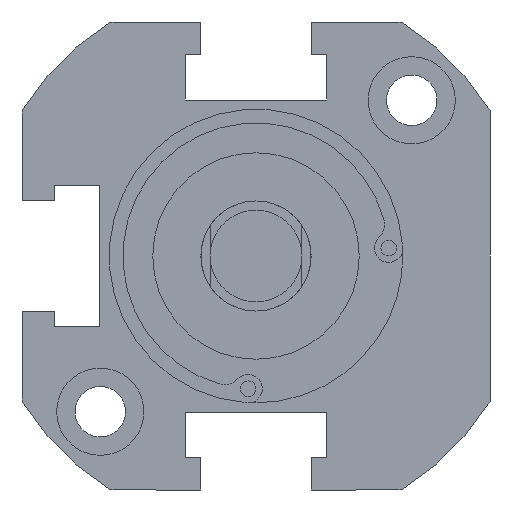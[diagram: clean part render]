
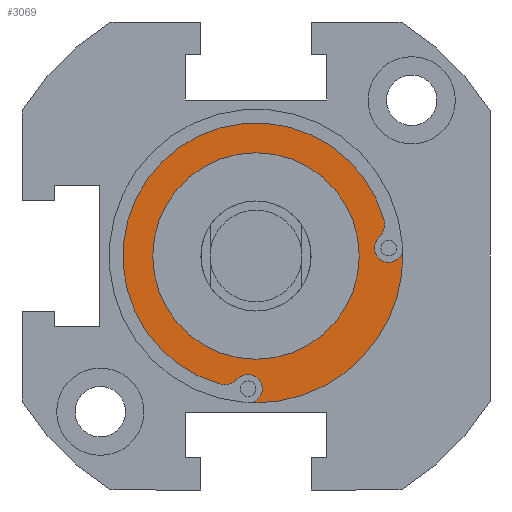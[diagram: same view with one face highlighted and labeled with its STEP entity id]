
A CAD part, front view. The second image highlights one B-rep face of the part: STEP entity #3069.
In plain terms, the highlighted planar face has unit normal (0, -1, 0).
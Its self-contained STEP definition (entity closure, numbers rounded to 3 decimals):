
#82 = CIRCLE ( 'NONE', #2430, 1.55 ) ;
#84 = AXIS2_PLACEMENT_3D ( 'NONE', #1080, #2371, #3626 ) ;
#180 = VERTEX_POINT ( 'NONE', #2902 ) ;
#186 = AXIS2_PLACEMENT_3D ( 'NONE', #2345, #1734, #1089 ) ;
#195 = VERTEX_POINT ( 'NONE', #3942 ) ;
#216 = CARTESIAN_POINT ( 'NONE',  ( 13.942, -43., 3.982 ) ) ;
#253 = ORIENTED_EDGE ( 'NONE', *, *, #1753, .T. ) ;
#256 = AXIS2_PLACEMENT_3D ( 'NONE', #1735, #3004, #513 ) ;
#278 = DIRECTION ( 'NONE',  ( 0., -1., 0. ) ) ;
#339 = CARTESIAN_POINT ( 'NONE',  ( 0., -43., 11.25 ) ) ;
#348 = DIRECTION ( 'NONE',  ( 0., 0., 1. ) ) ;
#361 = EDGE_CURVE ( 'NONE', #1412, #180, #498, .T. ) ;
#490 = CARTESIAN_POINT ( 'NONE',  ( 0., -43., 0. ) ) ;
#498 = CIRCLE ( 'NONE', #256, 2. ) ;
#513 = DIRECTION ( 'NONE',  ( 0., 0., -1. ) ) ;
#534 = EDGE_CURVE ( 'NONE', #1949, #3651, #3642, .T. ) ;
#543 = DIRECTION ( 'NONE',  ( 0., 0., -1. ) ) ;
#601 = VERTEX_POINT ( 'NONE', #2386 ) ;
#633 = DIRECTION ( 'NONE',  ( 0., 1., 0. ) ) ;
#648 = CARTESIAN_POINT ( 'NONE',  ( -0.859, -43., -14.464 ) ) ;
#691 = CARTESIAN_POINT ( 'NONE',  ( -0.582, -43., -15.989 ) ) ;
#746 = VERTEX_POINT ( 'NONE', #3109 ) ;
#837 = DIRECTION ( 'NONE',  ( 0., 1., 0. ) ) ;
#882 = CARTESIAN_POINT ( 'NONE',  ( -3.433, -43., -14.019 ) ) ;
#903 = PLANE ( 'NONE',  #1452 ) ;
#913 = DIRECTION ( 'NONE',  ( 0., 0., 1. ) ) ;
#914 = FACE_OUTER_BOUND ( 'NONE', #2640, .T. ) ;
#936 = EDGE_CURVE ( 'NONE', #601, #2452, #1643, .T. ) ;
#1080 = CARTESIAN_POINT ( 'NONE',  ( 12.019, -43., 3.433 ) ) ;
#1089 = DIRECTION ( 'NONE',  ( 0., 0., 1. ) ) ;
#1151 = CARTESIAN_POINT ( 'NONE',  ( 0., -43., 0. ) ) ;
#1195 = CARTESIAN_POINT ( 'NONE',  ( 14.464, -43., 0.859 ) ) ;
#1344 = ORIENTED_EDGE ( 'NONE', *, *, #4060, .F. ) ;
#1412 = VERTEX_POINT ( 'NONE', #882 ) ;
#1429 = CIRCLE ( 'NONE', #2004, 16. ) ;
#1452 = AXIS2_PLACEMENT_3D ( 'NONE', #1151, #3123, #4080 ) ;
#1473 = ORIENTED_EDGE ( 'NONE', *, *, #534, .T. ) ;
#1490 = DIRECTION ( 'NONE',  ( 0., 1., 0. ) ) ;
#1510 = EDGE_CURVE ( 'NONE', #746, #601, #2967, .T. ) ;
#1531 = DIRECTION ( 'NONE',  ( 0., -1., 0. ) ) ;
#1544 = CIRCLE ( 'NONE', #2891, 14.5 ) ;
#1643 = CIRCLE ( 'NONE', #2020, 1.55 ) ;
#1645 = ORIENTED_EDGE ( 'NONE', *, *, #2018, .F. ) ;
#1679 = CIRCLE ( 'NONE', #84, 2. ) ;
#1723 = FACE_BOUND ( 'NONE', #3799, .T. ) ;
#1734 = DIRECTION ( 'NONE',  ( 0., 1., 0. ) ) ;
#1735 = CARTESIAN_POINT ( 'NONE',  ( -3.433, -43., -12.019 ) ) ;
#1753 = EDGE_CURVE ( 'NONE', #3651, #1949, #2275, .T. ) ;
#1916 = CARTESIAN_POINT ( 'NONE',  ( 14.464, -43., 0.859 ) ) ;
#1936 = AXIS2_PLACEMENT_3D ( 'NONE', #490, #2013, #3941 ) ;
#1949 = VERTEX_POINT ( 'NONE', #339 ) ;
#1953 = ORIENTED_EDGE ( 'NONE', *, *, #361, .T. ) ;
#2004 = AXIS2_PLACEMENT_3D ( 'NONE', #2464, #1490, #3682 ) ;
#2013 = DIRECTION ( 'NONE',  ( 0., 1., 0. ) ) ;
#2018 = EDGE_CURVE ( 'NONE', #3611, #3454, #1544, .T. ) ;
#2020 = AXIS2_PLACEMENT_3D ( 'NONE', #1195, #278, #3404 ) ;
#2184 = CARTESIAN_POINT ( 'NONE',  ( 0., -43., -11.25 ) ) ;
#2275 = CIRCLE ( 'NONE', #186, 11.25 ) ;
#2303 = VERTEX_POINT ( 'NONE', #691 ) ;
#2345 = CARTESIAN_POINT ( 'NONE',  ( 0., -43., 0. ) ) ;
#2371 = DIRECTION ( 'NONE',  ( 0., -1., 0. ) ) ;
#2386 = CARTESIAN_POINT ( 'NONE',  ( 14.464, -43., -0.691 ) ) ;
#2412 = CARTESIAN_POINT ( 'NONE',  ( -3.433, -43., -12.019 ) ) ;
#2430 = AXIS2_PLACEMENT_3D ( 'NONE', #648, #633, #2526 ) ;
#2452 = VERTEX_POINT ( 'NONE', #3909 ) ;
#2464 = CARTESIAN_POINT ( 'NONE',  ( 0., -43., 0. ) ) ;
#2526 = DIRECTION ( 'NONE',  ( 0., 0., 1. ) ) ;
#2548 = ORIENTED_EDGE ( 'NONE', *, *, #936, .F. ) ;
#2566 = ORIENTED_EDGE ( 'NONE', *, *, #3010, .F. ) ;
#2640 = EDGE_LOOP ( 'NONE', ( #3044, #3628, #1645, #3260, #1953, #2729, #1344, #2566, #2548 ) ) ;
#2729 = ORIENTED_EDGE ( 'NONE', *, *, #3081, .T. ) ;
#2784 = AXIS2_PLACEMENT_3D ( 'NONE', #1916, #1531, #913 ) ;
#2879 = EDGE_CURVE ( 'NONE', #746, #3454, #1679, .T. ) ;
#2891 = AXIS2_PLACEMENT_3D ( 'NONE', #3171, #3814, #348 ) ;
#2902 = CARTESIAN_POINT ( 'NONE',  ( -1.983, -43., -13.397 ) ) ;
#2914 = EDGE_CURVE ( 'NONE', #3611, #1412, #3126, .T. ) ;
#2967 = CIRCLE ( 'NONE', #2784, 1.55 ) ;
#3004 = DIRECTION ( 'NONE',  ( 0., -1., 0. ) ) ;
#3010 = EDGE_CURVE ( 'NONE', #2452, #195, #1429, .T. ) ;
#3012 = DIRECTION ( 'NONE',  ( 0., 0., 1. ) ) ;
#3026 = AXIS2_PLACEMENT_3D ( 'NONE', #3598, #837, #3012 ) ;
#3044 = ORIENTED_EDGE ( 'NONE', *, *, #1510, .F. ) ;
#3069 = ADVANCED_FACE ( 'NONE', ( #914, #1723 ), #903, .T. ) ;
#3081 = EDGE_CURVE ( 'NONE', #180, #2303, #82, .T. ) ;
#3109 = CARTESIAN_POINT ( 'NONE',  ( 13.397, -43., 1.983 ) ) ;
#3123 = DIRECTION ( 'NONE',  ( 0., -1., 0. ) ) ;
#3126 = CIRCLE ( 'NONE', #4011, 2. ) ;
#3171 = CARTESIAN_POINT ( 'NONE',  ( 0., -43., 0. ) ) ;
#3260 = ORIENTED_EDGE ( 'NONE', *, *, #2914, .T. ) ;
#3404 = DIRECTION ( 'NONE',  ( 0., 0., 1. ) ) ;
#3447 = CARTESIAN_POINT ( 'NONE',  ( -3.982, -43., -13.942 ) ) ;
#3454 = VERTEX_POINT ( 'NONE', #216 ) ;
#3598 = CARTESIAN_POINT ( 'NONE',  ( 0., -43., 0. ) ) ;
#3611 = VERTEX_POINT ( 'NONE', #3447 ) ;
#3626 = DIRECTION ( 'NONE',  ( 0., 0., -1. ) ) ;
#3628 = ORIENTED_EDGE ( 'NONE', *, *, #2879, .T. ) ;
#3642 = CIRCLE ( 'NONE', #3026, 11.25 ) ;
#3651 = VERTEX_POINT ( 'NONE', #2184 ) ;
#3682 = DIRECTION ( 'NONE',  ( 0., 0., 1. ) ) ;
#3697 = DIRECTION ( 'NONE',  ( 0., -1., 0. ) ) ;
#3799 = EDGE_LOOP ( 'NONE', ( #253, #1473 ) ) ;
#3814 = DIRECTION ( 'NONE',  ( 0., 1., 0. ) ) ;
#3909 = CARTESIAN_POINT ( 'NONE',  ( 15.989, -43., 0.582 ) ) ;
#3941 = DIRECTION ( 'NONE',  ( 0., 0., 1. ) ) ;
#3942 = CARTESIAN_POINT ( 'NONE',  ( 0., -43., -16. ) ) ;
#3961 = CIRCLE ( 'NONE', #1936, 16. ) ;
#4011 = AXIS2_PLACEMENT_3D ( 'NONE', #2412, #3697, #543 ) ;
#4060 = EDGE_CURVE ( 'NONE', #195, #2303, #3961, .T. ) ;
#4080 = DIRECTION ( 'NONE',  ( 0., 0., 1. ) ) ;
